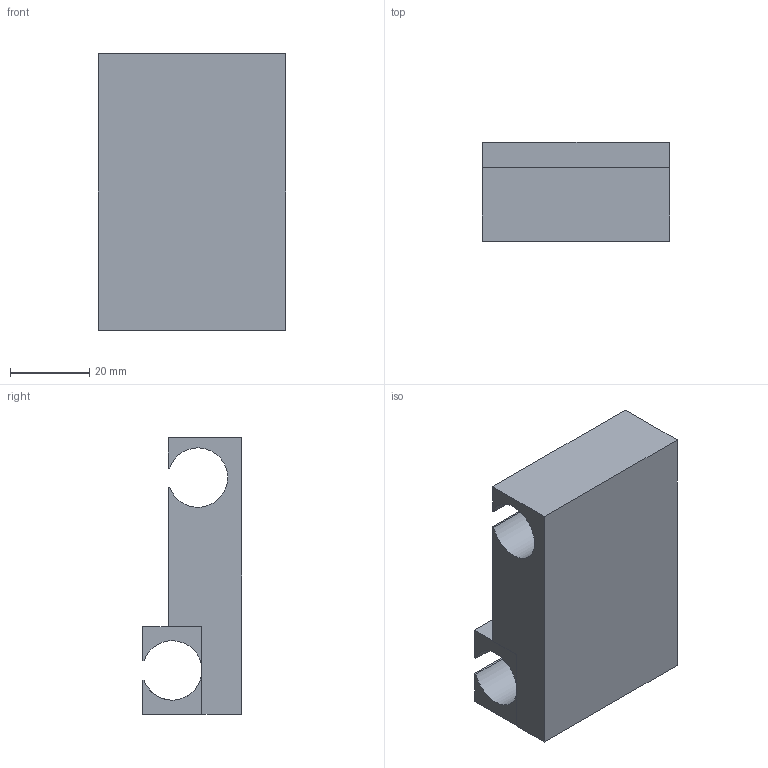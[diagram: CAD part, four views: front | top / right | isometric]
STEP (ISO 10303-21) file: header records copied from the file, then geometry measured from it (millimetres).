
FILE_DESCRIPTION(/* description */ (''),/* implementation_level */ '2;1');
FILE_NAME(/* name */ 'BLOQUE~1',/* time_stamp */ '2019-04-01T21:32:23-03:00',/* author */ (''),/* organization */ (''),/* preprocessor_version */ 'ST-DEVELOPER v16.5',/* originating_system */ '',/* authorisation */ '');
FILE_SCHEMA (('AUTOMOTIVE_DESIGN'));
Length unit declared in the file: millimetre
Products named in the file (1): Document
Bounding box: 47.4 x 24.99 x 69.67 mm (x, y, z)
Volume: 35344.4 mm3; surface area: 16621 mm2
Topology: 1 solids, 1 shells, 34 faces, 90 edges, 58 vertices
Faces by surface type: plane 26, bspline 8
Entity records: 1062 total; most frequent: CARTESIAN_POINT 463, ORIENTED_EDGE 180, EDGE_CURVE 90, B_SPLINE_CURVE_WITH_KNOTS 72, VERTEX_POINT 58, ADVANCED_FACE 34, FACE_OUTER_BOUND 34, EDGE_LOOP 34
